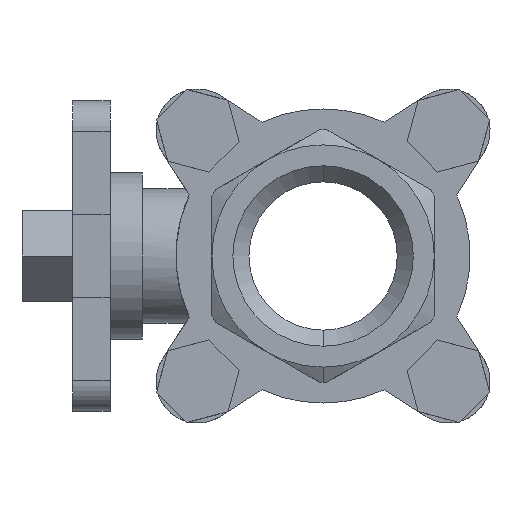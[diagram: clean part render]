
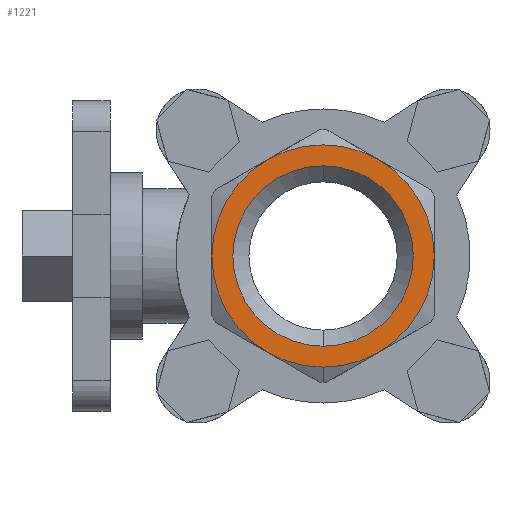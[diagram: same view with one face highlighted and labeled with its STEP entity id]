
A CAD part, left-side view. The second image highlights one B-rep face of the part: STEP entity #1221.
In plain terms, the highlighted planar face has unit normal (-1, 0, 0).
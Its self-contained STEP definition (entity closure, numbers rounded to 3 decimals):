
#59 = CARTESIAN_POINT ( 'NONE',  ( -45., 0., 0. ) ) ;
#198 = CARTESIAN_POINT ( 'NONE',  ( -45., 0., 0. ) ) ;
#277 = DIRECTION ( 'NONE',  ( 0., 0., 1. ) ) ;
#665 = VERTEX_POINT ( 'NONE', #1340 ) ;
#678 = VERTEX_POINT ( 'NONE', #1087 ) ;
#726 = VERTEX_POINT ( 'NONE', #1530 ) ;
#815 = DIRECTION ( 'NONE',  ( 0., 0., 1. ) ) ;
#877 = AXIS2_PLACEMENT_3D ( 'NONE', #198, #5175, #951 ) ;
#895 = AXIS2_PLACEMENT_3D ( 'NONE', #2173, #6934, #1133 ) ;
#951 = DIRECTION ( 'NONE',  ( 0., 0., 1. ) ) ;
#1082 = AXIS2_PLACEMENT_3D ( 'NONE', #5400, #1199, #6066 ) ;
#1087 = CARTESIAN_POINT ( 'NONE',  ( -45., 0., -24. ) ) ;
#1133 = DIRECTION ( 'NONE',  ( 0., 0., 1. ) ) ;
#1137 = EDGE_CURVE ( 'NONE', #665, #726, #6419, .T. ) ;
#1199 = DIRECTION ( 'NONE',  ( -1., 0., 0. ) ) ;
#1202 = FACE_OUTER_BOUND ( 'NONE', #3073, .T. ) ;
#1221 = ADVANCED_FACE ( 'NONE', ( #4728, #1202 ), #2486, .F. ) ;
#1236 = DIRECTION ( 'NONE',  ( -1., 0., 0. ) ) ;
#1296 = ORIENTED_EDGE ( 'NONE', *, *, #8079, .T. ) ;
#1305 = CIRCLE ( 'NONE', #1082, 24. ) ;
#1340 = CARTESIAN_POINT ( 'NONE',  ( -45., 0., 19.475 ) ) ;
#1478 = VERTEX_POINT ( 'NONE', #6896 ) ;
#1530 = CARTESIAN_POINT ( 'NONE',  ( -45., 0., -19.475 ) ) ;
#1661 = EDGE_CURVE ( 'NONE', #1478, #8877, #6806, .T. ) ;
#1739 = CARTESIAN_POINT ( 'NONE',  ( -45., 19.475, 0. ) ) ;
#2173 = CARTESIAN_POINT ( 'NONE',  ( -45., 0., 0. ) ) ;
#2486 = PLANE ( 'NONE',  #4460 ) ;
#2530 = AXIS2_PLACEMENT_3D ( 'NONE', #5438, #1236, #6096 ) ;
#2534 = CARTESIAN_POINT ( 'NONE',  ( -45., 0., 0. ) ) ;
#2585 = ORIENTED_EDGE ( 'NONE', *, *, #2765, .F. ) ;
#2622 = CARTESIAN_POINT ( 'NONE',  ( -45., -12., 20.785 ) ) ;
#2649 = EDGE_CURVE ( 'NONE', #8877, #4925, #1305, .T. ) ;
#2765 = EDGE_CURVE ( 'NONE', #726, #665, #3360, .T. ) ;
#2798 = AXIS2_PLACEMENT_3D ( 'NONE', #7719, #3698, #8382 ) ;
#2809 = ORIENTED_EDGE ( 'NONE', *, *, #2649, .T. ) ;
#3036 = ORIENTED_EDGE ( 'NONE', *, *, #4085, .T. ) ;
#3073 = EDGE_LOOP ( 'NONE', ( #4410, #2809, #4617, #3036, #4817, #8377, #1296 ) ) ;
#3206 = DIRECTION ( 'NONE',  ( 0., 0., -1. ) ) ;
#3242 = DIRECTION ( 'NONE',  ( 0., 0., 1. ) ) ;
#3360 = CIRCLE ( 'NONE', #895, 19.475 ) ;
#3692 = CARTESIAN_POINT ( 'NONE',  ( -45., 0., 0. ) ) ;
#3698 = DIRECTION ( 'NONE',  ( -1., 0., 0. ) ) ;
#4085 = EDGE_CURVE ( 'NONE', #678, #8129, #4908, .T. ) ;
#4112 = EDGE_LOOP ( 'NONE', ( #7761, #2585 ) ) ;
#4383 = DIRECTION ( 'NONE',  ( 0., 0., 1. ) ) ;
#4410 = ORIENTED_EDGE ( 'NONE', *, *, #1661, .T. ) ;
#4460 = AXIS2_PLACEMENT_3D ( 'NONE', #1739, #5847, #3206 ) ;
#4509 = AXIS2_PLACEMENT_3D ( 'NONE', #2534, #7267, #3242 ) ;
#4573 = DIRECTION ( 'NONE',  ( -1., 0., 0. ) ) ;
#4617 = ORIENTED_EDGE ( 'NONE', *, *, #5779, .T. ) ;
#4642 = CARTESIAN_POINT ( 'NONE',  ( -45., 24., 0. ) ) ;
#4649 = AXIS2_PLACEMENT_3D ( 'NONE', #8566, #4573, #277 ) ;
#4728 = FACE_BOUND ( 'NONE', #4112, .T. ) ;
#4814 = EDGE_CURVE ( 'NONE', #4945, #6528, #5445, .T. ) ;
#4817 = ORIENTED_EDGE ( 'NONE', *, *, #6952, .T. ) ;
#4908 = CIRCLE ( 'NONE', #2530, 24. ) ;
#4925 = VERTEX_POINT ( 'NONE', #7999 ) ;
#4945 = VERTEX_POINT ( 'NONE', #6008 ) ;
#5043 = DIRECTION ( 'NONE',  ( -1., 0., 0. ) ) ;
#5175 = DIRECTION ( 'NONE',  ( -1., 0., 0. ) ) ;
#5316 = CIRCLE ( 'NONE', #8942, 24. ) ;
#5400 = CARTESIAN_POINT ( 'NONE',  ( -45., 0., 0. ) ) ;
#5438 = CARTESIAN_POINT ( 'NONE',  ( -45., 0., 0. ) ) ;
#5445 = CIRCLE ( 'NONE', #4649, 24. ) ;
#5779 = EDGE_CURVE ( 'NONE', #4925, #678, #5316, .T. ) ;
#5847 = DIRECTION ( 'NONE',  ( 1., 0., 0. ) ) ;
#5947 = CARTESIAN_POINT ( 'NONE',  ( -45., -12., -20.785 ) ) ;
#6008 = CARTESIAN_POINT ( 'NONE',  ( -45., -24., 0. ) ) ;
#6066 = DIRECTION ( 'NONE',  ( 0., 0., 1. ) ) ;
#6096 = DIRECTION ( 'NONE',  ( 0., 0., 1. ) ) ;
#6181 = AXIS2_PLACEMENT_3D ( 'NONE', #59, #5043, #815 ) ;
#6419 = CIRCLE ( 'NONE', #2798, 19.475 ) ;
#6528 = VERTEX_POINT ( 'NONE', #2622 ) ;
#6806 = CIRCLE ( 'NONE', #877, 24. ) ;
#6896 = CARTESIAN_POINT ( 'NONE',  ( -45., 12., 20.785 ) ) ;
#6934 = DIRECTION ( 'NONE',  ( -1., 0., 0. ) ) ;
#6952 = EDGE_CURVE ( 'NONE', #8129, #4945, #7727, .T. ) ;
#7267 = DIRECTION ( 'NONE',  ( -1., 0., 0. ) ) ;
#7719 = CARTESIAN_POINT ( 'NONE',  ( -45., 0., 0. ) ) ;
#7727 = CIRCLE ( 'NONE', #6181, 24. ) ;
#7761 = ORIENTED_EDGE ( 'NONE', *, *, #1137, .F. ) ;
#7922 = CIRCLE ( 'NONE', #4509, 24. ) ;
#7999 = CARTESIAN_POINT ( 'NONE',  ( -45., 12., -20.785 ) ) ;
#8079 = EDGE_CURVE ( 'NONE', #6528, #1478, #7922, .T. ) ;
#8129 = VERTEX_POINT ( 'NONE', #5947 ) ;
#8372 = DIRECTION ( 'NONE',  ( -1., 0., 0. ) ) ;
#8377 = ORIENTED_EDGE ( 'NONE', *, *, #4814, .T. ) ;
#8382 = DIRECTION ( 'NONE',  ( 0., 0., 1. ) ) ;
#8566 = CARTESIAN_POINT ( 'NONE',  ( -45., 0., 0. ) ) ;
#8877 = VERTEX_POINT ( 'NONE', #4642 ) ;
#8942 = AXIS2_PLACEMENT_3D ( 'NONE', #3692, #8372, #4383 ) ;
